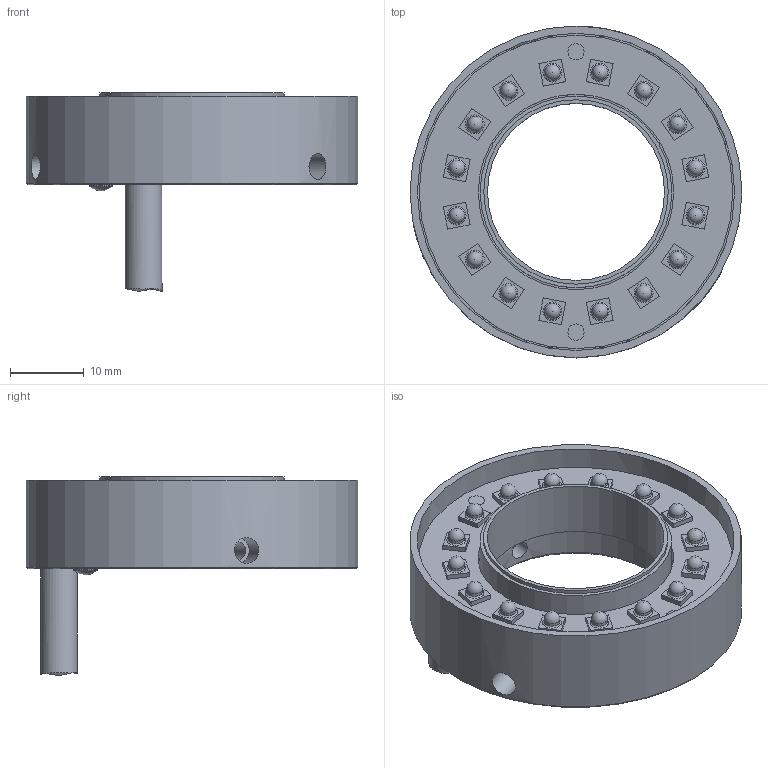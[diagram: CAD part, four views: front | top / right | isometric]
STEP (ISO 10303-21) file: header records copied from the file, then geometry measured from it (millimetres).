
FILE_DESCRIPTION( ( '' ), '1' );
FILE_NAME( 'L:/01_Produktserie LUMIMAX/LSR-Serie/LSR24/03_Konstruktion/LSR24 Download & Katalog/LSR24.stp', '%{Zugriffsdatum}', ( 'Christian Koch' ), ( 'iiM AG' ), 'PSStep 13.0', 'Solid Edge', ' ' );
FILE_SCHEMA( ( 'AUTOMOTIVE_DESIGN { 1 0 10303 214 1 1 1 1 }' ) );
Length unit declared in the file: millimetre
Products named in the file (5): 1; LSR24 Array V2; Kabel M8 Steckverbinder 3_4pol; Lichtleiter LL 30 PRL 064; LSR24 Geh_use 111.0051.01.02
Bounding box: 45 x 45 x 26.91 mm (x, y, z)
Volume: 12261.8 mm3; surface area: 12607.5 mm2
Topology: 5 solids, 5 shells, 250 faces, 623 edges, 407 vertices
Faces by surface type: plane 126, cylinder 77, sphere 21, torus 18, extrusion 4, cone 4
Full cylindrical faces by diameter (mm): 1.567 x2, 2.15 x16, 2.2 x2, 2.459 x5, 2.9 x2, 3.2 x1, 3.5 x3, 4.7 x1, 5 x1, 6.7 x2, 24 x1, 25 x1, 26 x1, 26.5 x2, 27 x1, 42.5 x2, 43 x1, 45 x1
Entity records: 9115 total; most frequent: CARTESIAN_POINT 1671, DIRECTION 1138, ORIENTED_EDGE 958, EDGE_CURVE 479, AXIS2_PLACEMENT_3D 427, EDGE_LOOP 382, VERTEX_POINT 351, FACE_OUTER_BOUND 313
